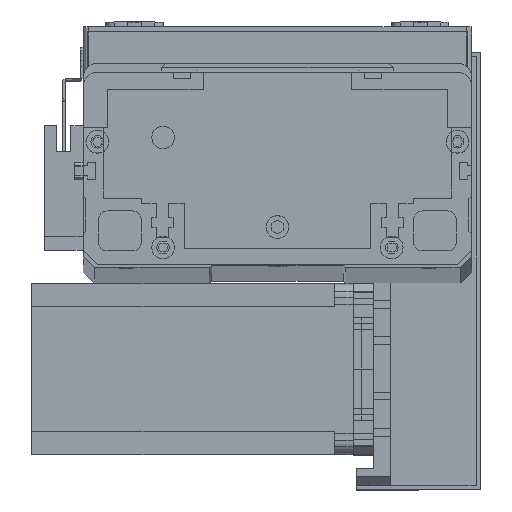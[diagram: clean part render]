
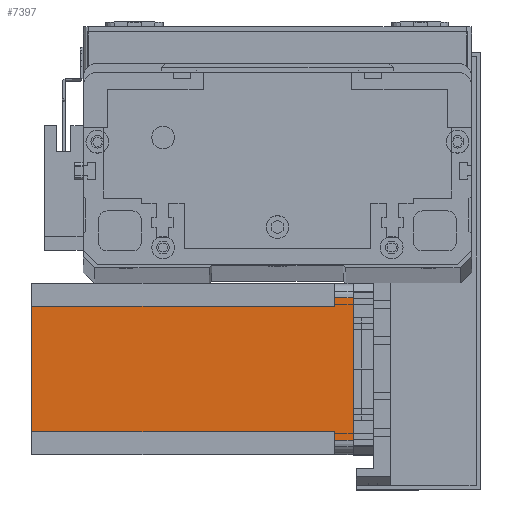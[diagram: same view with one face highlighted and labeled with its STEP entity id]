
A CAD part, top view. The second image highlights one B-rep face of the part: STEP entity #7397.
In plain terms, the highlighted planar face has unit normal (0, 0, 1) as drawn and (0, -1, 0) by its records, which use the part's own axes.
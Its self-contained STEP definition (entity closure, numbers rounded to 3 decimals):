
#350 = DIRECTION ( 'NONE',  ( 0., 0., 1. ) ) ;
#643 = CARTESIAN_POINT ( 'NONE',  ( 55., 0., -6.5 ) ) ;
#1129 = LINE ( 'NONE', #12365, #30910 ) ;
#1601 = CARTESIAN_POINT ( 'NONE',  ( 52., 0., -6.5 ) ) ;
#2550 = CARTESIAN_POINT ( 'NONE',  ( 8., 0., -6.5 ) ) ;
#2710 = EDGE_CURVE ( 'NONE', #30537, #21888, #8783, .T. ) ;
#2716 = ORIENTED_EDGE ( 'NONE', *, *, #7896, .T. ) ;
#3282 = DIRECTION ( 'NONE',  ( 0., 0., -1. ) ) ;
#4063 = DIRECTION ( 'NONE',  ( 1., 0., 0. ) ) ;
#5179 = CARTESIAN_POINT ( 'NONE',  ( 5., 0., 0. ) ) ;
#5259 = ORIENTED_EDGE ( 'NONE', *, *, #23355, .F. ) ;
#5603 = VECTOR ( 'NONE', #9673, 1000. ) ;
#5985 = EDGE_CURVE ( 'NONE', #27179, #9164, #26112, .T. ) ;
#6029 = CARTESIAN_POINT ( 'NONE',  ( 0., 0., 0. ) ) ;
#6247 = CARTESIAN_POINT ( 'NONE',  ( 8., 0., -112.5 ) ) ;
#7327 = DIRECTION ( 'NONE',  ( -1., 0., 0. ) ) ;
#7397 = ADVANCED_FACE ( 'NONE', ( #26037 ), #20076, .T. ) ;
#7896 = EDGE_CURVE ( 'NONE', #10072, #21888, #1129, .T. ) ;
#8783 = LINE ( 'NONE', #6029, #26458 ) ;
#9164 = VERTEX_POINT ( 'NONE', #28083 ) ;
#9673 = DIRECTION ( 'NONE',  ( 0., 0., -1. ) ) ;
#10072 = VERTEX_POINT ( 'NONE', #643 ) ;
#10189 = CARTESIAN_POINT ( 'NONE',  ( 0., 0., -112.5 ) ) ;
#11776 = VECTOR ( 'NONE', #4063, 1000. ) ;
#11877 = EDGE_LOOP ( 'NONE', ( #18837, #2716, #20080, #21393, #17217, #25615, #20585, #5259 ) ) ;
#12365 = CARTESIAN_POINT ( 'NONE',  ( 55., 0., -112.5 ) ) ;
#12937 = DIRECTION ( 'NONE',  ( 0., -1., 0. ) ) ;
#14627 = CARTESIAN_POINT ( 'NONE',  ( 5., 0., -6.5 ) ) ;
#15202 = LINE ( 'NONE', #2550, #20081 ) ;
#16693 = EDGE_CURVE ( 'NONE', #30537, #29223, #16891, .T. ) ;
#16891 = LINE ( 'NONE', #26487, #5603 ) ;
#17164 = VERTEX_POINT ( 'NONE', #27462 ) ;
#17217 = ORIENTED_EDGE ( 'NONE', *, *, #18195, .F. ) ;
#18121 = DIRECTION ( 'NONE',  ( 1., 0., 0. ) ) ;
#18195 = EDGE_CURVE ( 'NONE', #22860, #29223, #15202, .T. ) ;
#18284 = LINE ( 'NONE', #20084, #23922 ) ;
#18837 = ORIENTED_EDGE ( 'NONE', *, *, #26579, .T. ) ;
#19730 = VECTOR ( 'NONE', #22389, 1000. ) ;
#20076 = PLANE ( 'NONE',  #30389 ) ;
#20080 = ORIENTED_EDGE ( 'NONE', *, *, #2710, .F. ) ;
#20081 = VECTOR ( 'NONE', #7327, 1000. ) ;
#20084 = CARTESIAN_POINT ( 'NONE',  ( 8., 0., -112.5 ) ) ;
#20118 = CARTESIAN_POINT ( 'NONE',  ( 52., 0., -112.5 ) ) ;
#20570 = CARTESIAN_POINT ( 'NONE',  ( 8., 0., -6.5 ) ) ;
#20585 = ORIENTED_EDGE ( 'NONE', *, *, #5985, .T. ) ;
#21393 = ORIENTED_EDGE ( 'NONE', *, *, #16693, .T. ) ;
#21693 = VECTOR ( 'NONE', #3282, 1000. ) ;
#21888 = VERTEX_POINT ( 'NONE', #27646 ) ;
#22389 = DIRECTION ( 'NONE',  ( 1., 0., 0. ) ) ;
#22860 = VERTEX_POINT ( 'NONE', #20570 ) ;
#23355 = EDGE_CURVE ( 'NONE', #17164, #9164, #28102, .T. ) ;
#23922 = VECTOR ( 'NONE', #24921, 1000. ) ;
#24913 = CARTESIAN_POINT ( 'NONE',  ( 0., 0., -112.5 ) ) ;
#24921 = DIRECTION ( 'NONE',  ( 0., 0., 1. ) ) ;
#25328 = LINE ( 'NONE', #1601, #11776 ) ;
#25615 = ORIENTED_EDGE ( 'NONE', *, *, #31159, .F. ) ;
#26037 = FACE_OUTER_BOUND ( 'NONE', #11877, .T. ) ;
#26112 = LINE ( 'NONE', #10189, #19730 ) ;
#26458 = VECTOR ( 'NONE', #18121, 1000. ) ;
#26487 = CARTESIAN_POINT ( 'NONE',  ( 5., 0., -112.5 ) ) ;
#26579 = EDGE_CURVE ( 'NONE', #17164, #10072, #25328, .T. ) ;
#27179 = VERTEX_POINT ( 'NONE', #6247 ) ;
#27462 = CARTESIAN_POINT ( 'NONE',  ( 52., 0., -6.5 ) ) ;
#27646 = CARTESIAN_POINT ( 'NONE',  ( 55., 0., 0. ) ) ;
#28083 = CARTESIAN_POINT ( 'NONE',  ( 52., 0., -112.5 ) ) ;
#28102 = LINE ( 'NONE', #20118, #21693 ) ;
#29223 = VERTEX_POINT ( 'NONE', #14627 ) ;
#29763 = DIRECTION ( 'NONE',  ( 0., 0., -1. ) ) ;
#30389 = AXIS2_PLACEMENT_3D ( 'NONE', #24913, #12937, #29763 ) ;
#30537 = VERTEX_POINT ( 'NONE', #5179 ) ;
#30910 = VECTOR ( 'NONE', #350, 1000. ) ;
#31159 = EDGE_CURVE ( 'NONE', #27179, #22860, #18284, .T. ) ;
